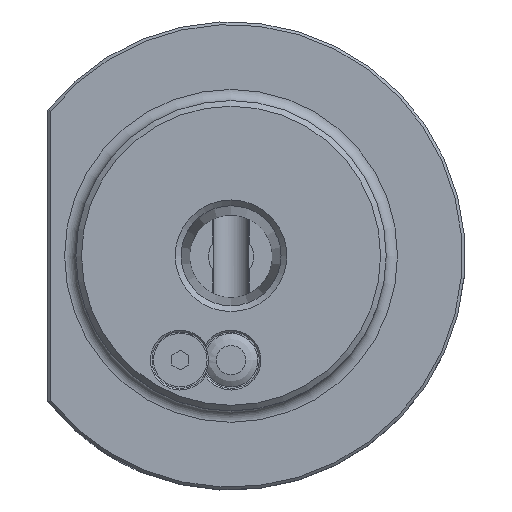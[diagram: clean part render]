
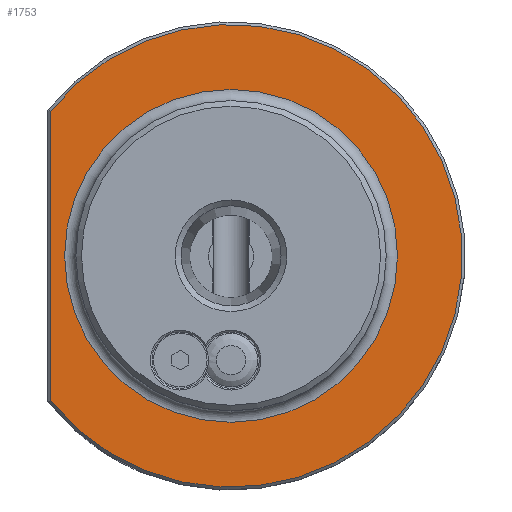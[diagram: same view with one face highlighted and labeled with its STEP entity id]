
A CAD part, top view. The second image highlights one B-rep face of the part: STEP entity #1753.
In plain terms, the highlighted planar face has unit normal (0, 0, 1).
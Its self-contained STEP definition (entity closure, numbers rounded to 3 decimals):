
#102=FACE_BOUND('',#587,.T.);
#115=LINE('',#2676,#259);
#259=VECTOR('',#2116,10.);
#403=PLANE('',#1892);
#480=FACE_OUTER_BOUND('',#586,.T.);
#586=EDGE_LOOP('',(#1237,#1238));
#587=EDGE_LOOP('',(#1239));
#702=CIRCLE('',#1888,41.);
#704=CIRCLE('',#1893,29.5);
#769=VERTEX_POINT('',#2664);
#770=VERTEX_POINT('',#2669);
#778=VERTEX_POINT('',#2734);
#948=EDGE_CURVE('',#769,#770,#702,.T.);
#950=EDGE_CURVE('',#770,#769,#115,.T.);
#960=EDGE_CURVE('',#778,#778,#704,.T.);
#1237=ORIENTED_EDGE('',*,*,#948,.F.);
#1238=ORIENTED_EDGE('',*,*,#950,.F.);
#1239=ORIENTED_EDGE('',*,*,#960,.F.);
#1753=ADVANCED_FACE('',(#480,#102),#403,.T.);
#1888=AXIS2_PLACEMENT_3D('',#2670,#2112,#2113);
#1892=AXIS2_PLACEMENT_3D('',#2733,#2126,#2127);
#1893=AXIS2_PLACEMENT_3D('',#2735,#2128,#2129);
#2112=DIRECTION('center_axis',(0.,0.,-1.));
#2113=DIRECTION('ref_axis',(0.,-1.,0.));
#2116=DIRECTION('',(0.,1.,0.));
#2126=DIRECTION('center_axis',(0.,0.,1.));
#2127=DIRECTION('ref_axis',(1.,0.,0.));
#2128=DIRECTION('center_axis',(0.,0.,1.));
#2129=DIRECTION('ref_axis',(0.,1.,0.));
#2664=CARTESIAN_POINT('',(-32.,25.632,133.));
#2669=CARTESIAN_POINT('',(-32.,-25.632,133.));
#2670=CARTESIAN_POINT('Origin',(0.,0.,133.));
#2676=CARTESIAN_POINT('',(-32.,-20.75,133.));
#2733=CARTESIAN_POINT('Origin',(0.,-41.5,133.));
#2734=CARTESIAN_POINT('',(29.5,0.,133.));
#2735=CARTESIAN_POINT('Origin',(0.,0.,133.));
